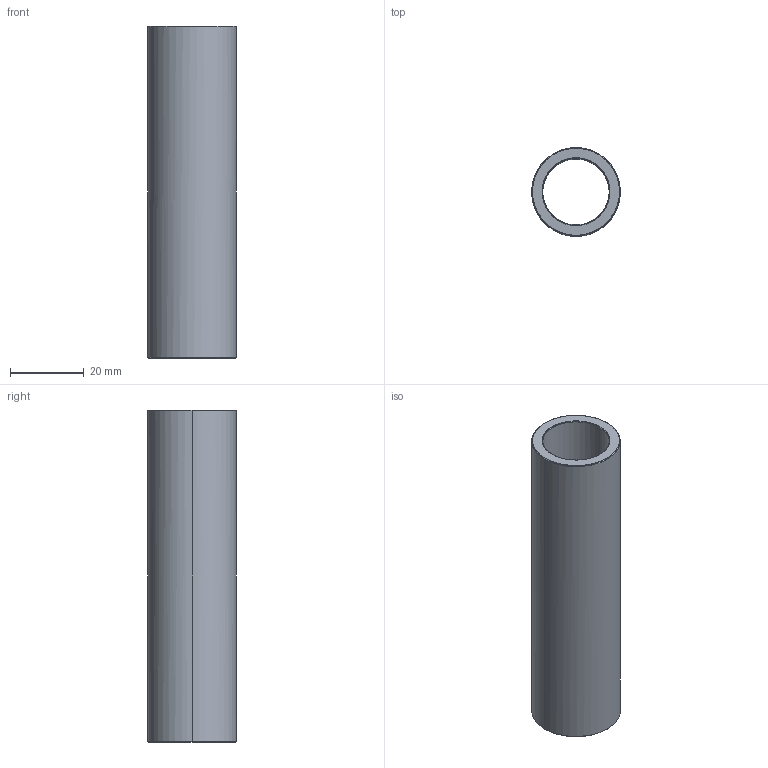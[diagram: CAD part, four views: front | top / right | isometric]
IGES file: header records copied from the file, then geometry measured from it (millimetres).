
Start section: Write IGES format                                    datakit 2008 (c)
Global section: file name: Unknown; native system: DATAKIT Converter; preprocessor: Unknown; author: Unknown; organization: Unknown; date: 950613.180003; units: millimetre
Bounding box: 24 x 23.97 x 90 mm (x, y, z)
Surface area: 12240.1 mm2 (no closed solid volume)
Topology: 0 solids, 0 shells, 14 faces, 56 edges, 56 vertices
Faces by surface type: revolution 12, bspline 2
